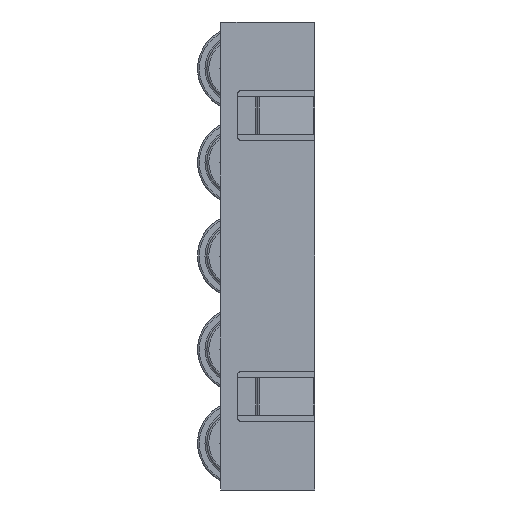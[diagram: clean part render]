
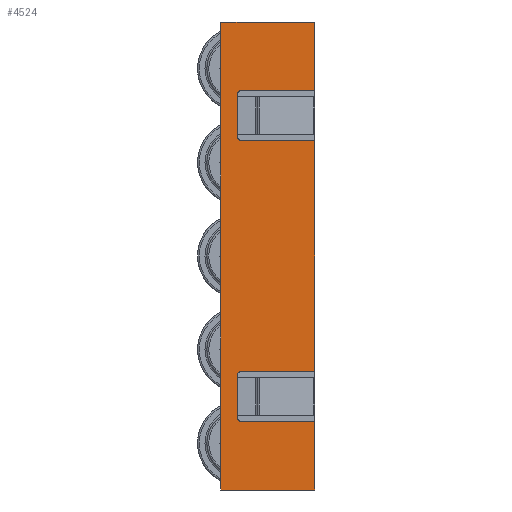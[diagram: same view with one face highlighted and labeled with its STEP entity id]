
A CAD part, left-side view. The second image highlights one B-rep face of the part: STEP entity #4524.
In plain terms, the highlighted planar face has unit normal (-1, 0, 0) as drawn and (0, 0, -1) by its records, which use the part's own axes.
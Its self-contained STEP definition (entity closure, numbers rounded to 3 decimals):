
#18=LINE('',#6553,#526);
#55=LINE('',#6630,#563);
#59=LINE('',#6638,#567);
#63=LINE('',#6646,#571);
#211=LINE('',#7038,#719);
#250=LINE('',#7102,#758);
#251=LINE('',#7106,#759);
#252=LINE('',#7110,#760);
#253=LINE('',#7111,#761);
#254=LINE('',#7116,#762);
#255=LINE('',#7117,#763);
#256=LINE('',#7118,#764);
#526=VECTOR('',#5256,1000.);
#563=VECTOR('',#5297,1000.);
#567=VECTOR('',#5301,1000.);
#571=VECTOR('',#5305,1000.);
#719=VECTOR('',#5591,1000.);
#758=VECTOR('',#5650,1000.);
#759=VECTOR('',#5653,1000.);
#760=VECTOR('',#5656,1000.);
#761=VECTOR('',#5657,1000.);
#762=VECTOR('',#5662,1000.);
#763=VECTOR('',#5663,1000.);
#764=VECTOR('',#5664,1000.);
#1523=ORIENTED_EDGE('',*,*,#2795,.F.);
#1524=ORIENTED_EDGE('',*,*,#2796,.T.);
#1525=ORIENTED_EDGE('',*,*,#2797,.T.);
#1526=ORIENTED_EDGE('',*,*,#2798,.T.);
#1527=ORIENTED_EDGE('',*,*,#2799,.T.);
#1528=ORIENTED_EDGE('',*,*,#2558,.F.);
#1529=ORIENTED_EDGE('',*,*,#2800,.T.);
#1530=ORIENTED_EDGE('',*,*,#2801,.T.);
#1531=ORIENTED_EDGE('',*,*,#2517,.T.);
#1532=ORIENTED_EDGE('',*,*,#2802,.T.);
#1533=ORIENTED_EDGE('',*,*,#2803,.T.);
#1534=ORIENTED_EDGE('',*,*,#2554,.F.);
#1535=ORIENTED_EDGE('',*,*,#2804,.F.);
#1536=ORIENTED_EDGE('',*,*,#2756,.F.);
#1537=ORIENTED_EDGE('',*,*,#2805,.F.);
#1538=ORIENTED_EDGE('',*,*,#2562,.F.);
#2517=EDGE_CURVE('',#3183,#3184,#18,.T.);
#2554=EDGE_CURVE('',#3220,#3221,#55,.T.);
#2558=EDGE_CURVE('',#3224,#3225,#59,.T.);
#2562=EDGE_CURVE('',#3228,#3229,#63,.T.);
#2756=EDGE_CURVE('',#3403,#3404,#211,.T.);
#2795=EDGE_CURVE('',#3419,#3228,#250,.T.);
#2796=EDGE_CURVE('',#3419,#3420,#3679,.T.);
#2797=EDGE_CURVE('',#3420,#3421,#251,.T.);
#2798=EDGE_CURVE('',#3421,#3422,#3680,.T.);
#2799=EDGE_CURVE('',#3422,#3225,#252,.T.);
#2800=EDGE_CURVE('',#3224,#3423,#253,.T.);
#2801=EDGE_CURVE('',#3423,#3183,#3681,.T.);
#2802=EDGE_CURVE('',#3184,#3424,#3682,.T.);
#2803=EDGE_CURVE('',#3424,#3221,#254,.T.);
#2804=EDGE_CURVE('',#3404,#3220,#255,.T.);
#2805=EDGE_CURVE('',#3229,#3403,#256,.T.);
#3183=VERTEX_POINT('',#6554);
#3184=VERTEX_POINT('',#6555);
#3220=VERTEX_POINT('',#6629);
#3221=VERTEX_POINT('',#6631);
#3224=VERTEX_POINT('',#6637);
#3225=VERTEX_POINT('',#6639);
#3228=VERTEX_POINT('',#6645);
#3229=VERTEX_POINT('',#6647);
#3403=VERTEX_POINT('',#7037);
#3404=VERTEX_POINT('',#7039);
#3419=VERTEX_POINT('',#7103);
#3420=VERTEX_POINT('',#7105);
#3421=VERTEX_POINT('',#7107);
#3422=VERTEX_POINT('',#7109);
#3423=VERTEX_POINT('',#7112);
#3424=VERTEX_POINT('',#7115);
#3679=CIRCLE('',#4878,0.4);
#3680=CIRCLE('',#4879,0.4);
#3681=CIRCLE('',#4880,0.4);
#3682=CIRCLE('',#4881,0.4);
#3855=EDGE_LOOP('',(#1523,#1524,#1525,#1526,#1527,#1528,#1529,#1530,#1531,
#1532,#1533,#1534,#1535,#1536,#1537,#1538));
#4125=FACE_BOUND('',#3855,.T.);
#4344=PLANE('',#4877);
#4524=ADVANCED_FACE('',(#4125),#4344,.F.);
#4877=AXIS2_PLACEMENT_3D('',#7101,#5648,#5649);
#4878=AXIS2_PLACEMENT_3D('',#7104,#5651,#5652);
#4879=AXIS2_PLACEMENT_3D('',#7108,#5654,#5655);
#4880=AXIS2_PLACEMENT_3D('',#7113,#5658,#5659);
#4881=AXIS2_PLACEMENT_3D('',#7114,#5660,#5661);
#5256=DIRECTION('',(-1.,0.,0.));
#5297=DIRECTION('',(1.,0.,0.));
#5301=DIRECTION('',(1.,0.,0.));
#5305=DIRECTION('',(1.,0.,0.));
#5591=DIRECTION('',(-1.,0.,0.));
#5648=DIRECTION('',(0.,0.,1.));
#5649=DIRECTION('',(1.,0.,0.));
#5650=DIRECTION('',(0.,-1.,0.));
#5651=DIRECTION('',(0.,0.,1.));
#5652=DIRECTION('',(1.,0.,0.));
#5653=DIRECTION('',(-1.,0.,0.));
#5654=DIRECTION('',(0.,0.,1.));
#5655=DIRECTION('',(1.,0.,0.));
#5656=DIRECTION('',(0.,-1.,0.));
#5657=DIRECTION('',(0.,1.,0.));
#5658=DIRECTION('',(0.,0.,1.));
#5659=DIRECTION('',(1.,0.,0.));
#5660=DIRECTION('',(0.,0.,1.));
#5661=DIRECTION('',(1.,0.,0.));
#5662=DIRECTION('',(0.,-1.,0.));
#5663=DIRECTION('',(0.,-1.,0.));
#5664=DIRECTION('',(0.,1.,0.));
#6553=CARTESIAN_POINT('',(-12.7,3.2,-16.7));
#6554=CARTESIAN_POINT('',(-12.7,3.2,-16.7));
#6555=CARTESIAN_POINT('',(-17.3,3.2,-16.7));
#6629=CARTESIAN_POINT('',(-25.,-5.,-16.7));
#6630=CARTESIAN_POINT('',(-25.,-5.,-16.7));
#6631=CARTESIAN_POINT('',(-17.7,-5.,-16.7));
#6637=CARTESIAN_POINT('',(-12.3,-5.,-16.7));
#6638=CARTESIAN_POINT('',(-25.,-5.,-16.7));
#6639=CARTESIAN_POINT('',(12.3,-5.,-16.7));
#6645=CARTESIAN_POINT('',(17.7,-5.,-16.7));
#6646=CARTESIAN_POINT('',(-25.,-5.,-16.7));
#6647=CARTESIAN_POINT('',(25.,-5.,-16.7));
#7037=CARTESIAN_POINT('',(25.,5.,-16.7));
#7038=CARTESIAN_POINT('',(25.,5.,-16.7));
#7039=CARTESIAN_POINT('',(-25.,5.,-16.7));
#7101=CARTESIAN_POINT('',(0.,0.,-16.7));
#7102=CARTESIAN_POINT('',(17.7,0.,-16.7));
#7103=CARTESIAN_POINT('',(17.7,2.8,-16.7));
#7104=CARTESIAN_POINT('',(17.3,2.8,-16.7));
#7105=CARTESIAN_POINT('',(17.3,3.2,-16.7));
#7106=CARTESIAN_POINT('',(17.3,3.2,-16.7));
#7107=CARTESIAN_POINT('',(12.7,3.2,-16.7));
#7108=CARTESIAN_POINT('',(12.7,2.8,-16.7));
#7109=CARTESIAN_POINT('',(12.3,2.8,-16.7));
#7110=CARTESIAN_POINT('',(12.3,2.8,-16.7));
#7111=CARTESIAN_POINT('',(-12.3,-5.,-16.7));
#7112=CARTESIAN_POINT('',(-12.3,2.8,-16.7));
#7113=CARTESIAN_POINT('',(-12.7,2.8,-16.7));
#7114=CARTESIAN_POINT('',(-17.3,2.8,-16.7));
#7115=CARTESIAN_POINT('',(-17.7,2.8,-16.7));
#7116=CARTESIAN_POINT('',(-17.7,2.8,-16.7));
#7117=CARTESIAN_POINT('',(-25.,5.,-16.7));
#7118=CARTESIAN_POINT('',(25.,-5.,-16.7));
